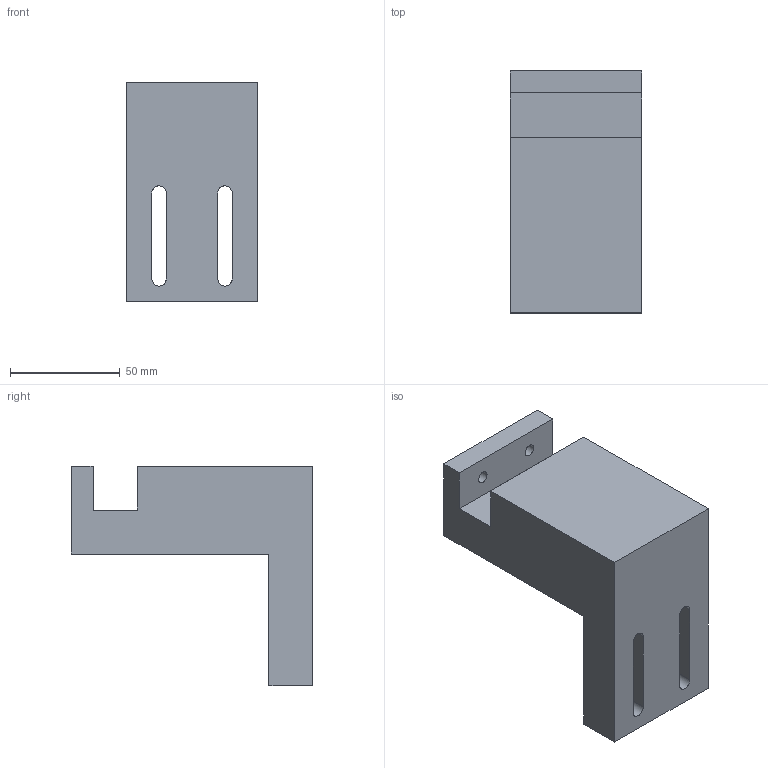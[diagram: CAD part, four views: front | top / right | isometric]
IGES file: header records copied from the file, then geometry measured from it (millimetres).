
Global section: file name: 固定件4; native system: Autodesk Inventor 2025; preprocessor: unknown; author: 97163; date: 20260318.135303; units: millimetre
Bounding box: 60 x 110 x 100 mm (x, y, z)
Volume: 293437.1 mm3; surface area: 41509 mm2
Topology: 1 solids, 1 shells, 36 faces, 96 edges, 66 vertices
Faces by surface type: bspline 36
